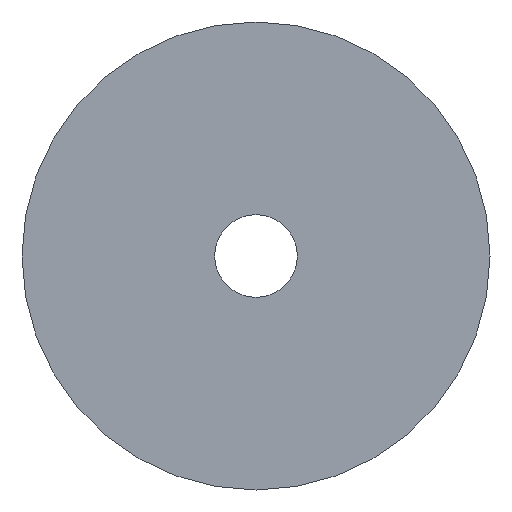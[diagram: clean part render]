
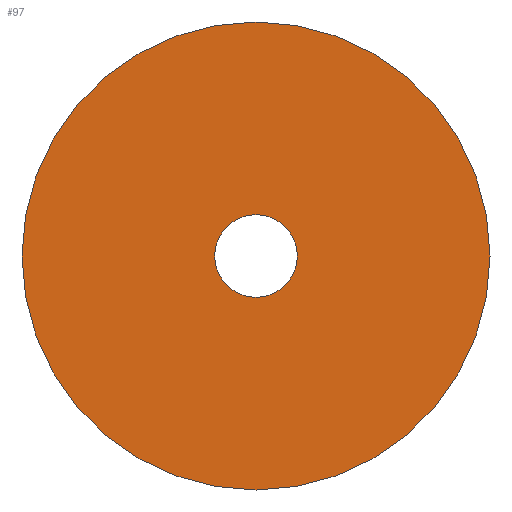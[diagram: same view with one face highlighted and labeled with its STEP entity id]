
A CAD part, front view. The second image highlights one B-rep face of the part: STEP entity #97.
In plain terms, the highlighted planar face has unit normal (0, -1, 0).
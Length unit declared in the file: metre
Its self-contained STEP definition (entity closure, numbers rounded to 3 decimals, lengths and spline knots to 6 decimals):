
#15=PLANE('',#124);
#26=ORIENTED_EDGE('',*,*,#38,.F.);
#27=ORIENTED_EDGE('',*,*,#39,.T.);
#38=EDGE_CURVE('',#46,#46,#54,.T.);
#39=EDGE_CURVE('',#47,#47,#55,.T.);
#46=VERTEX_POINT('',#183);
#47=VERTEX_POINT('',#185);
#54=CIRCLE('',#125,0.003);
#55=CIRCLE('',#126,0.017);
#66=EDGE_LOOP('',(#26));
#67=EDGE_LOOP('',(#27));
#82=FACE_BOUND('',#66,.T.);
#83=FACE_BOUND('',#67,.T.);
#97=ADVANCED_FACE('',(#82,#83),#15,.T.);
#124=AXIS2_PLACEMENT_3D('',#181,#153,#154);
#125=AXIS2_PLACEMENT_3D('',#182,#155,#156);
#126=AXIS2_PLACEMENT_3D('',#184,#157,#158);
#153=DIRECTION('',(0.,-1.,0.));
#154=DIRECTION('',(1.,0.,0.));
#155=DIRECTION('',(0.,-1.,0.));
#156=DIRECTION('',(0.,0.,-1.));
#157=DIRECTION('',(0.,-1.,0.));
#158=DIRECTION('',(0.,0.,-1.));
#181=CARTESIAN_POINT('',(0.,-0.36195,0.));
#182=CARTESIAN_POINT('',(0.,-0.36195,0.));
#183=CARTESIAN_POINT('',(0.,-0.36195,-0.003));
#184=CARTESIAN_POINT('',(0.,-0.36195,0.));
#185=CARTESIAN_POINT('',(0.,-0.36195,-0.017));
